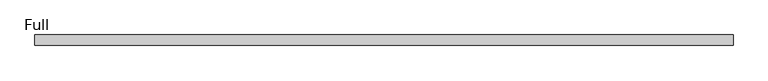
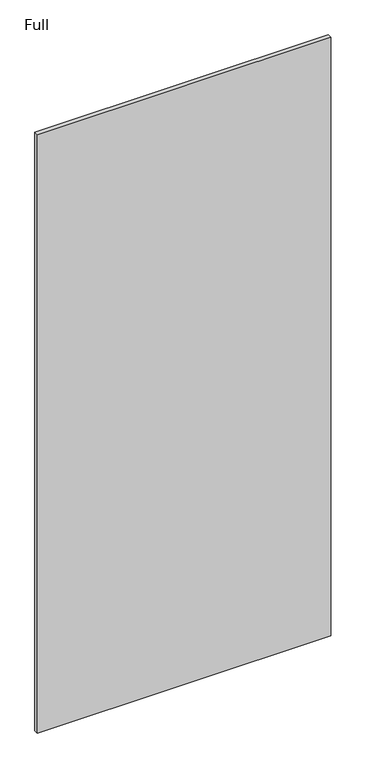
"""IFC4 building model written with IfcOpenShell, lengths in millimetres: proxy geometry, Panel-Fascia-Teknion-Altos-Standard : Full."""

from ifc_helpers import new_model, si_unit, frame, origin, place, context, project, spatial, polyline, outline, extrude, source, transform, mapped, element, save


def full_84ced3e5(model_context):
    return source(origin(), model_context, "Body", "SweptSolid", [
        extrude(outline(polyline([(635.0, -9.525), (-635.0, -9.525), (-635.0, 9.525), (635.0, 9.525), (635.0, -9.525)])), frame((0.0, 0.0, 3.175), z_axis=(0.0, 0.0, 1.0), x_axis=(1.0, 0.0, 0.0)), (0.0, 0.0, 1.0), 2739.136),
    ])


if __name__ == "__main__":
    model = new_model("IFC4")
    model_context = context("Model", 3, world=origin())
    ifc_project = project(units=[si_unit("LENGTHUNIT", "METRE", prefix="MILLI")], contexts=[model_context])
    site = spatial("IfcSite", under=ifc_project)
    building = spatial("IfcBuilding", under=site)
    placement = place(None, origin())
    full_shape = full_84ced3e5(model_context)
    element("IfcBuildingElementProxy", 1, Name="Panel-Fascia-Teknion-Altos-Standard : Full", ObjectType="Panel-Fascia-Teknion-Altos-Standard : Full", at=placement, inside=building, context=model_context, shape_type="MappedRepresentation", body=[
        mapped(full_shape, transform((0.0, 0.0, 0.0), x_axis=(1.0, 0.0, 0.0), y_axis=(0.0, 1.0, 0.0), z_axis=(0.0, 0.0, 1.0))),
    ])
    save(model, "model.ifc")
